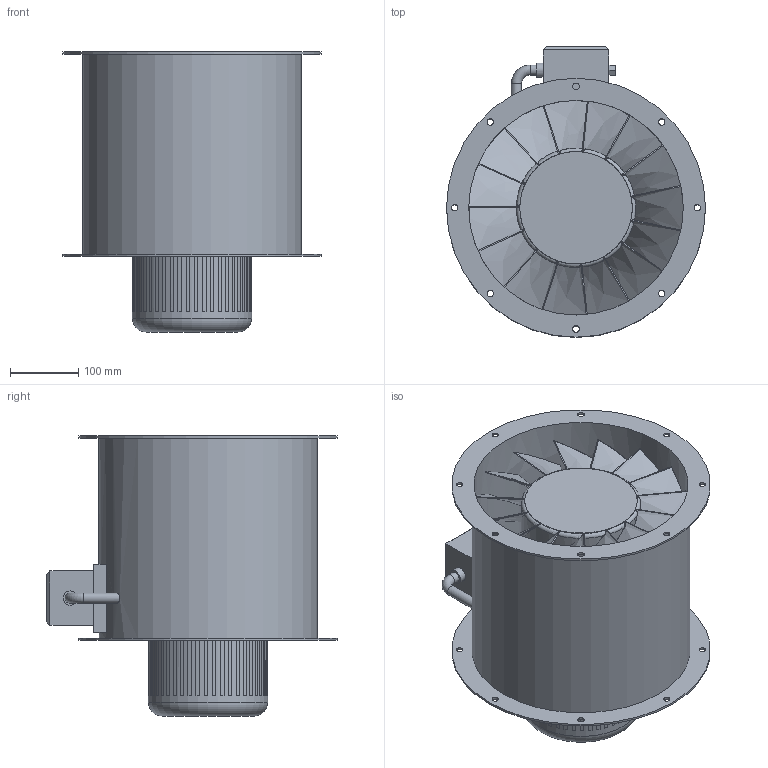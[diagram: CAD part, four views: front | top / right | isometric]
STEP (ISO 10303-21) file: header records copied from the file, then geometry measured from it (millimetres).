
FILE_DESCRIPTION(/* description */ (''),/* implementation_level */ '2;1');
FILE_NAME(/* name */ 'Z:\Output\AMD_315-2-2-02267-001.stp',/* time_stamp */ '2021-12-10T17:03:46+01:00',/* author */ ('engineering1'),/* organization */ (''),/* preprocessor_version */ 'ST-DEVELOPER v17.2',/* originating_system */ 'Autodesk Inventor 2019',/* authorisation */ '');
FILE_SCHEMA (('AUTOMOTIVE_DESIGN { 1 0 10303 214 3 1 1 }'));
Length unit declared in the file: millimetre
Products named in the file (1): AMD W
Bounding box: 380 x 427 x 411 mm (x, y, z)
Volume: 11554568.2 mm3; surface area: 1532548.3 mm2
Topology: 43 solids, 43 shells, 434 faces, 1021 edges, 645 vertices
Faces by surface type: plane 239, cylinder 133, bspline 45, torus 17
Full cylindrical faces by diameter (mm): 9.5 x16, 15 x3, 21 x1, 175 x1, 315 x1, 321 x1, 380 x2
Entity records: 13681 total; most frequent: CARTESIAN_POINT 3907, ORIENTED_EDGE 2042, DIRECTION 1870, EDGE_CURVE 1021, AXIS2_PLACEMENT_3D 673, VERTEX_POINT 645, LINE 524, VECTOR 524
